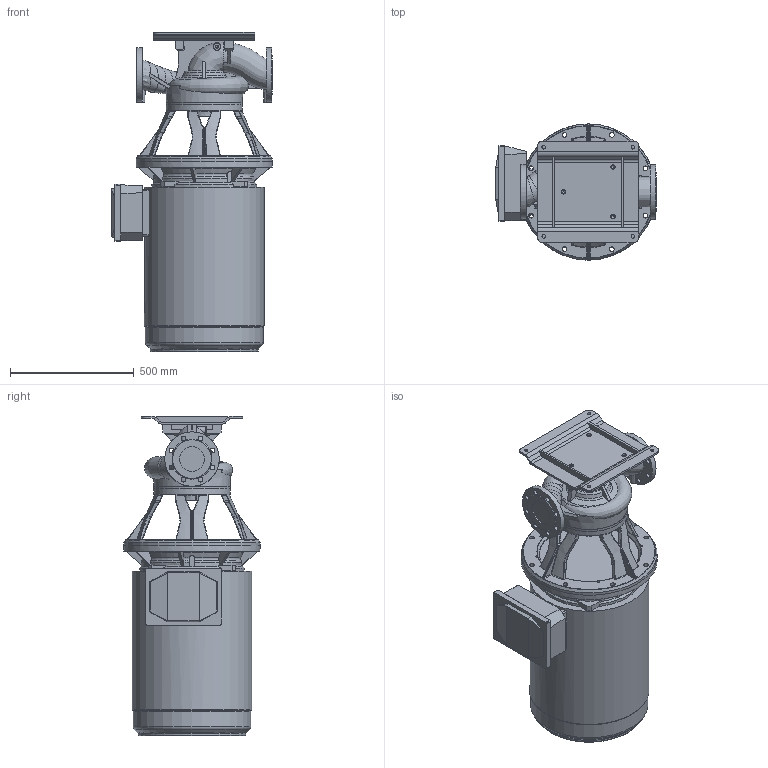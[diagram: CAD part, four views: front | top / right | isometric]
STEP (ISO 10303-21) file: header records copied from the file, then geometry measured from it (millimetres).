
FILE_DESCRIPTION (( 'STEP AP203' ), '1' );
FILE_NAME ('KI100-220_2_55kW.STEP', '2024-07-30T08:06:22', ( '' ), ( '' ), 'SwSTEP 2.0', 'SolidWorks 2023', '' );
FILE_SCHEMA (( 'CONFIG_CONTROL_DESIGN' ));
Length unit declared in the file: millimetre
Products named in the file (11): 230572; 220537; 230085; KI100-220_2_55kW; 230566; 230084; 220536; 230083; HMC3-250M-2P-B5_solid; 230575; 230565
Assembly tree (11 placements, depth 3):
  KI100-220_2_55kW
    HMC3-250M-2P-B5_solid
    230566
      230565
    230575
      230572
    220537
      220536
    230085
      230083
      230084  x2
Bounding box: 649 x 550 x 1292.21 mm (x, y, z)
Volume: 169470779.8 mm3; surface area: 3812750.7 mm2
Topology: 7 solids, 7 shells, 1005 faces, 2696 edges, 1664 vertices
Faces by surface type: bspline 321, plane 280, cylinder 241, torus 92, cone 69, sphere 2
Full cylindrical faces by diameter (mm): 6 x2, 6.8 x4, 8.5 x4, 10 x4, 10.2 x8, 11.445 x1, 11.8 x3, 14 x19, 14.5 x4, 18 x3, 19 x32, 100 x2, 220 x2, 225 x1, 230 x1, 243 x1, 255 x2, 308 x2, 404 x1, 424 x1, 435.4 x1, 450 x1, 475.4 x1, 483.4 x1, 550 x2
Entity records: 70734 total; most frequent: CARTESIAN_POINT 48296, ORIENTED_EDGE 4808, DIRECTION 3711, EDGE_CURVE 2404, VERTEX_POINT 1559, AXIS2_PLACEMENT_3D 1544, EDGE_LOOP 1283, FACE_OUTER_BOUND 1112
